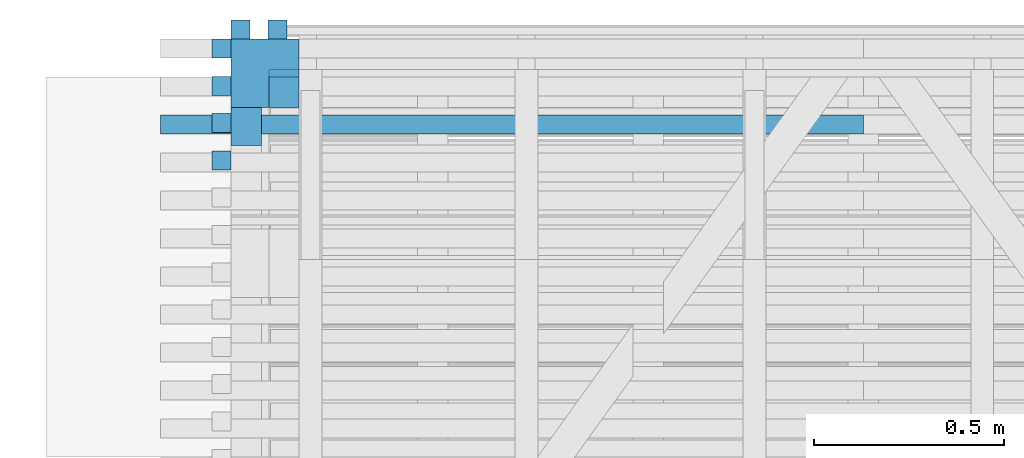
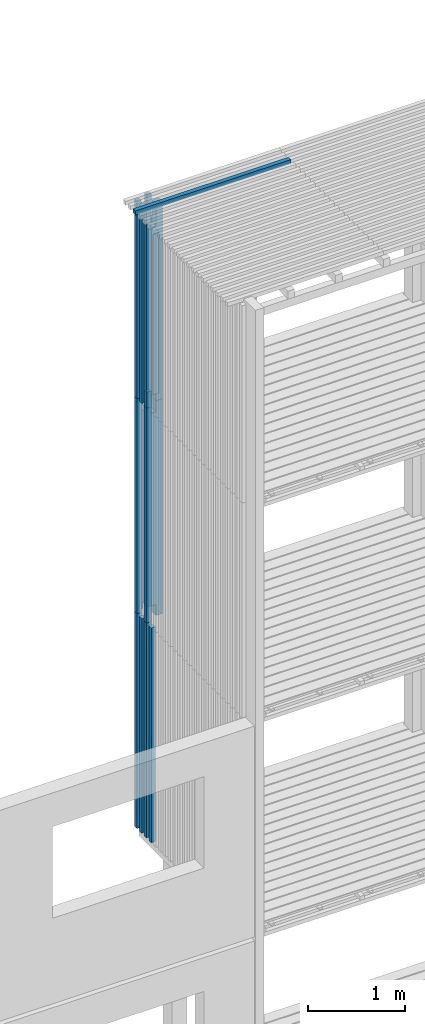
# One storey, part 43 of 182: 17 beams.
"""IFC2X3 building model written with IfcOpenShell, lengths in metres."""

from ifc_helpers import new_model, si_unit, frame, origin, place, context, project, spatial, faceted_brep, element, save


model = new_model("IFC2X3")

# Units and contexts
model_context = context("Model", 3, precision=1e-06, world=origin())
ifc_project = project(units=[si_unit("LENGTHUNIT", "METRE"), si_unit("PLANEANGLEUNIT", "RADIAN")], contexts=[model_context])

# Site, building, storey
site = spatial("IfcSite", under=ifc_project, CompositionType="ELEMENT")
building = spatial("IfcBuilding", under=site, CompositionType="ELEMENT")
storey = spatial("IfcBuildingStorey", under=building, Name="vs", CompositionType="ELEMENT", Elevation=-0.85)

# Beams
placement = place(None, origin())
beam_1_placement = place(placement, frame((13.364197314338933, 12.640077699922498, 8.146999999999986), z_axis=(0.0, -1.0, 0.0), x_axis=(0.0, 0.0, 1.0)))
element("IfcBeam", 1, at=beam_1_placement, inside=storey, Name="Support bardage", context=model_context, shape_type="Brep", body=[
    faceted_brep([(2.017999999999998, -0.040000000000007, -0.050000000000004), (2.017999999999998, 0.039999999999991, -0.050000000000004), (2.017999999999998, 0.039999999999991, 0.049999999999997), (2.017999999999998, -0.040000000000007, 0.049999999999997), (1e-15, 0.039999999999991, -0.050000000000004), (1e-15, -0.040000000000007, -0.050000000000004), (1e-15, -0.040000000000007, 0.049999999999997), (1e-15, 0.039999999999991, 0.049999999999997), (2.017999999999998, 0.039999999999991, 0.049999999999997), (2.017999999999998, 0.039999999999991, -0.050000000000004), (1e-15, 0.039999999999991, -0.050000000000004), (1e-15, 0.039999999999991, 0.049999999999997), (1e-15, 0.039999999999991, -0.050000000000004), (2.017999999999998, 0.039999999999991, -0.050000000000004), (2.017999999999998, -0.040000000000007, -0.050000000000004), (1e-15, -0.040000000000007, -0.050000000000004), (1e-15, -0.040000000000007, -0.050000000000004), (2.017999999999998, -0.040000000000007, -0.050000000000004), (2.017999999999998, -0.040000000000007, 0.049999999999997), (1e-15, -0.040000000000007, 0.049999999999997), (1e-15, -0.040000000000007, 0.049999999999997), (2.017999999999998, -0.040000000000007, 0.049999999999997), (2.017999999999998, 0.039999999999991, 0.049999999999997), (1e-15, 0.039999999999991, 0.049999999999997)], [[[0, 1, 2, 3]], [[4, 5, 6, 7]], [[8, 9, 10, 11]], [[12, 13, 14, 15]], [[16, 17, 18, 19]], [[20, 21, 22, 23]]]),
])
beam_2_placement = place(placement, frame((14.989197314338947, 12.645077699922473, 10.47999999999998), z_axis=(0.0, 0.0, 1.0), x_axis=(-1.0, 0.0, 0.0)))
element("IfcBeam", 2, at=beam_2_placement, inside=storey, Name="Bardage", context=model_context, shape_type="Brep", body=[
    faceted_brep([(1.850000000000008, -0.024999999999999, -0.024999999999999), (1.850000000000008, -0.024999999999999, 0.025000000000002), (-1e-15, -0.025000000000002, 0.025000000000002), (-1e-15, -0.025000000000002, -0.024999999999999), (1.850000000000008, -0.024999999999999, 0.025000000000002), (1.850000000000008, -0.024999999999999, -0.024999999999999), (1.850000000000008, 0.024999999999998, -0.024999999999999), (1.850000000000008, 0.024999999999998, 0.025000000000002), (1.850000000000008, 0.024999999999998, -0.024999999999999), (1.850000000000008, -0.024999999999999, -0.024999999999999), (-1e-15, -0.025000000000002, -0.024999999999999), (-1e-15, 0.024999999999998, -0.024999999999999), (1.850000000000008, 0.024999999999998, 0.025000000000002), (1.850000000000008, 0.024999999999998, -0.024999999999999), (-1e-15, 0.024999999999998, -0.024999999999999), (-1e-15, 0.024999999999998, 0.025000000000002), (-1e-15, -0.025000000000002, 0.025000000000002), (1.850000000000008, -0.024999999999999, 0.025000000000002), (1.850000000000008, 0.024999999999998, 0.025000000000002), (-1e-15, 0.024999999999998, 0.025000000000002), (-1e-15, -0.025000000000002, -0.024999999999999), (-1e-15, -0.025000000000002, 0.025000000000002), (-1e-15, 0.024999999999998, 0.025000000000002), (-1e-15, 0.024999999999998, -0.024999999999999)], [[[0, 1, 2, 3]], [[4, 5, 6, 7]], [[8, 9, 10, 11]], [[12, 13, 14, 15]], [[16, 17, 18, 19]], [[20, 21, 22, 23]]]),
])
beam_3_placement = place(placement, frame((13.447379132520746, 12.895077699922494, 5.274999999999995), z_axis=(0.0, -1.0, 0.0), x_axis=(0.0, 0.0, 1.0)))
element("IfcBeam", 3, at=beam_3_placement, inside=storey, Name="Bardage", context=model_context, shape_type="Brep", body=[
    faceted_brep([(1e-15, -0.025000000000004, 0.024999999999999), (1e-15, 0.024999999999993, 0.025000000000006), (1e-15, 0.025000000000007, -0.024999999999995), (1e-15, -0.025000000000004, -0.025000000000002), (2.699999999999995, -0.025000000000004, -0.025000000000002), (2.699999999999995, 0.025000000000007, -0.024999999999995), (2.699999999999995, 0.024999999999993, 0.025000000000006), (2.699999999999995, -0.025000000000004, 0.024999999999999), (1e-15, -0.025000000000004, 0.024999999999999), (1e-15, -0.025000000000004, -0.025000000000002), (2.699999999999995, -0.025000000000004, -0.025000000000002), (2.699999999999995, -0.025000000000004, 0.024999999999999), (2.699999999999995, -0.025000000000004, -0.025000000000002), (1e-15, -0.025000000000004, -0.025000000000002), (1e-15, 0.025000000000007, -0.024999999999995), (2.699999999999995, 0.025000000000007, -0.024999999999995), (2.699999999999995, 0.025000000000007, -0.024999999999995), (1e-15, 0.025000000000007, -0.024999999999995), (1e-15, 0.024999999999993, 0.025000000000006), (2.699999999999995, 0.024999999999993, 0.025000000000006), (2.699999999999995, 0.024999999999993, 0.025000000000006), (1e-15, 0.024999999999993, 0.025000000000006), (1e-15, -0.025000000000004, 0.024999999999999), (2.699999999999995, -0.025000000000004, 0.024999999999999)], [[[0, 1, 2, 3]], [[4, 5, 6, 7]], [[8, 9, 10, 11]], [[12, 13, 14, 15]], [[16, 17, 18, 19]], [[20, 21, 22, 23]]]),
])
beam_4_placement = place(placement, frame((13.414197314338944, 12.780077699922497, 7.979999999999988), z_axis=(0.0, -1.0, 0.0), x_axis=(0.0, 0.0, 1.0)))
element("IfcBeam", 4, at=beam_4_placement, inside=storey, Name="Poteau", context=model_context, shape_type="Brep", body=[
    faceted_brep([(2.194999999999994, -0.009999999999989, 0.089999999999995), (2.194999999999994, -0.009999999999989, 0.010000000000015), (2.194999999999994, -0.089999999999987, 0.010000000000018), (2.194999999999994, -0.089999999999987, -0.090000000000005), (2.194999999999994, 0.090000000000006, -0.090000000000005), (2.194999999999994, 0.090000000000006, 0.089999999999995), (0.139999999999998, 0.090000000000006, 0.089999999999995), (2.194999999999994, 0.090000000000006, 0.089999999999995), (2.194999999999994, 0.090000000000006, -0.090000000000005), (0.139999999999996, 0.090000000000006, -0.090000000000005), (0.059999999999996, -0.009999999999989, -0.009999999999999), (0.059999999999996, -0.089999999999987, -0.009999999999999), (-1e-15, -0.089999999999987, -0.009999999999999), (-1e-15, -0.009999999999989, -0.009999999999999), (-1e-15, -0.009999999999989, 0.089999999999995), (-1e-15, -0.009999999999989, -0.009999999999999), (-1e-15, -0.089999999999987, -0.009999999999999), (-1e-15, -0.089999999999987, 0.089999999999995), (0.139999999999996, -0.009999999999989, -0.090000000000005), (0.139999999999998, -0.009999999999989, 0.089999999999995), (0.139999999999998, 0.090000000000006, 0.089999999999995), (0.139999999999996, 0.090000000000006, -0.090000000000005), (0.059999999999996, -0.089999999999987, -0.009999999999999), (0.059999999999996, -0.009999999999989, -0.009999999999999), (0.059999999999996, -0.009999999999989, -0.090000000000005), (0.059999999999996, -0.089999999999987, -0.090000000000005), (-1e-15, -0.009999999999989, -0.009999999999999), (-1e-15, -0.009999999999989, 0.089999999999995), (0.139999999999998, -0.009999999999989, 0.089999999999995), (0.139999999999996, -0.009999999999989, -0.090000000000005), (0.059999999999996, -0.009999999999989, -0.090000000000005), (0.059999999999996, -0.009999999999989, -0.009999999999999), (0.059999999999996, -0.089999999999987, -0.090000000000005), (0.059999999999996, -0.009999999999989, -0.090000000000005), (0.139999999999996, -0.009999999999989, -0.090000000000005), (0.139999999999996, 0.090000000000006, -0.090000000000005), (2.194999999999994, 0.090000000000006, -0.090000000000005), (2.194999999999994, -0.089999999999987, -0.090000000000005), (2.474999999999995, -0.089999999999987, 0.089999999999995), (-1e-15, -0.089999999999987, 0.089999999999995), (-1e-15, -0.089999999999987, -0.009999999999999), (0.059999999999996, -0.089999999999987, -0.009999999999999), (0.059999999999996, -0.089999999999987, -0.090000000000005), (2.194999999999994, -0.089999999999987, -0.090000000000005), (2.194999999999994, -0.089999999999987, 0.010000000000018), (2.474999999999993, -0.089999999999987, 0.010000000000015), (2.474999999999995, -0.089999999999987, 0.089999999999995), (2.474999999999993, -0.089999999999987, 0.010000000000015), (2.474999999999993, -0.009999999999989, 0.010000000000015), (2.474999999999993, -0.009999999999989, 0.089999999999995), (2.194999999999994, -0.089999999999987, 0.010000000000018), (2.194999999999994, -0.009999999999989, 0.010000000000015), (2.474999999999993, -0.009999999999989, 0.010000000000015), (2.474999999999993, -0.089999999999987, 0.010000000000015), (2.474999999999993, -0.009999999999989, 0.089999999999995), (2.474999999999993, -0.009999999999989, 0.010000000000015), (2.194999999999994, -0.009999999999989, 0.010000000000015), (2.194999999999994, -0.009999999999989, 0.089999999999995), (2.474999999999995, -0.089999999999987, 0.089999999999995), (2.474999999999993, -0.009999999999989, 0.089999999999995), (2.194999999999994, -0.009999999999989, 0.089999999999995), (2.194999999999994, 0.090000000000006, 0.089999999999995), (0.139999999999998, 0.090000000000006, 0.089999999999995), (0.139999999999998, -0.009999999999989, 0.089999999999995), (-1e-15, -0.009999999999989, 0.089999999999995), (-1e-15, -0.089999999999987, 0.089999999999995)], [[[0, 1, 2, 3, 4, 5]], [[6, 7, 8, 9]], [[10, 11, 12, 13]], [[14, 15, 16, 17]], [[18, 19, 20, 21]], [[22, 23, 24, 25]], [[26, 27, 28, 29, 30, 31]], [[32, 33, 34, 35, 36, 37]], [[38, 39, 40, 41, 42, 43, 44, 45]], [[46, 47, 48, 49]], [[50, 51, 52, 53]], [[54, 55, 56, 57]], [[58, 59, 60, 61, 62, 63, 64, 65]]]),
])
beam_5_placement = place(placement, frame((13.349197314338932, 12.895077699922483, 5.274999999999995), z_axis=(0.0, -1.0, 0.0), x_axis=(0.0, 0.0, 1.0)))
element("IfcBeam", 5, at=beam_5_placement, inside=storey, Name="Bardage", context=model_context, shape_type="Brep", body=[
    faceted_brep([(1e-15, -0.025000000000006, 0.025000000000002), (1e-15, 0.024999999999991, 0.025000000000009), (1e-15, 0.025000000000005, -0.024999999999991), (1e-15, -0.024999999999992, -0.024999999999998), (2.699999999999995, -0.024999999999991, -0.024999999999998), (2.699999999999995, 0.025000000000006, -0.024999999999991), (2.699999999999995, 0.024999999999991, 0.025000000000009), (2.699999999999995, -0.025000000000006, 0.025000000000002), (1e-15, -0.025000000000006, 0.025000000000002), (1e-15, -0.024999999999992, -0.024999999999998), (2.699999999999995, -0.024999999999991, -0.024999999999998), (2.699999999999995, -0.025000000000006, 0.025000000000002), (2.699999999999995, -0.024999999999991, -0.024999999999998), (1e-15, -0.024999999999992, -0.024999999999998), (1e-15, 0.025000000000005, -0.024999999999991), (2.699999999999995, 0.025000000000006, -0.024999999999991), (2.699999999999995, 0.025000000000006, -0.024999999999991), (1e-15, 0.025000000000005, -0.024999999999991), (1e-15, 0.024999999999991, 0.025000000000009), (2.699999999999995, 0.024999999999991, 0.025000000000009), (2.699999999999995, 0.024999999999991, 0.025000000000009), (1e-15, 0.024999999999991, 0.025000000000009), (1e-15, -0.025000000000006, 0.025000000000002), (2.699999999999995, -0.025000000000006, 0.025000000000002)], [[[0, 1, 2, 3]], [[4, 5, 6, 7]], [[8, 9, 10, 11]], [[12, 13, 14, 15]], [[16, 17, 18, 19]], [[20, 21, 22, 23]]]),
])
beam_6_placement = place(placement, frame((13.299197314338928, 12.845077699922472, 2.575000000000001), z_axis=(1.0, 0.0, 0.0), x_axis=(0.0, 3e-15, 1.0)))
element("IfcBeam", 6, at=beam_6_placement, inside=storey, Name="Bardage", context=model_context, shape_type="Brep", body=[
    faceted_brep([(2.699961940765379, -0.024999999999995, 0.025000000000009), (2.699961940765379, -0.024999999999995, -0.025000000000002), (2.699961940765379, 0.02500000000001, -0.025000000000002), (2.699961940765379, 0.02500000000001, 0.025000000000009), (0.0, -0.025000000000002, 0.025000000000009), (2.699961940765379, -0.024999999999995, 0.025000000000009), (2.699961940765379, 0.02500000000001, 0.025000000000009), (0.0, 0.025000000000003, 0.025000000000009), (0.0, -0.025000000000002, 0.025000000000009), (0.0, 0.025000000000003, 0.025000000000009), (0.0, 0.025000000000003, -0.025000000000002), (0.0, -0.025000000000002, -0.025000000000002), (0.0, -0.025000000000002, 0.025000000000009), (0.0, -0.025000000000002, -0.025000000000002), (2.699961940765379, -0.024999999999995, -0.025000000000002), (2.699961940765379, -0.024999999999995, 0.025000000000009), (0.0, -0.025000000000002, -0.025000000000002), (0.0, 0.025000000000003, -0.025000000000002), (2.699961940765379, 0.02500000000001, -0.025000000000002), (2.699961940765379, -0.024999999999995, -0.025000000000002), (0.0, 0.025000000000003, -0.025000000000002), (0.0, 0.025000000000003, 0.025000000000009), (2.699961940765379, 0.02500000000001, 0.025000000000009), (2.699961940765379, 0.02500000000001, -0.025000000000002)], [[[0, 1, 2, 3]], [[4, 5, 6, 7]], [[8, 9, 10, 11]], [[12, 13, 14, 15]], [[16, 17, 18, 19]], [[20, 21, 22, 23]]]),
])
beam_7_placement = place(placement, frame((13.299197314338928, 12.648714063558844, 7.974999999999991), z_axis=(1.0, 0.0, 0.0), x_axis=(0.0, 0.0, 1.0)))
element("IfcBeam", 7, at=beam_7_placement, inside=storey, Name="Bardage", context=model_context, shape_type="Brep", body=[
    faceted_brep([(0.0, -0.024999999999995, 0.025000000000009), (0.0, 0.025000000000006, 0.025000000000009), (0.0, 0.025000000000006, -0.025000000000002), (0.0, -0.024999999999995, -0.025000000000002), (2.479999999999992, 0.025000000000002, -0.025000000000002), (2.479999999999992, 0.025000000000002, 0.025000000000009), (2.479999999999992, -0.024999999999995, 0.025000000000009), (2.479999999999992, -0.024999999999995, -0.025000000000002), (0.0, 0.025000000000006, 0.025000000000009), (0.0, -0.024999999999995, 0.025000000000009), (2.479999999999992, -0.024999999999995, 0.025000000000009), (2.479999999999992, 0.025000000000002, 0.025000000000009), (0.0, 0.025000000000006, -0.025000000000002), (0.0, 0.025000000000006, 0.025000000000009), (2.479999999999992, 0.025000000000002, 0.025000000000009), (2.479999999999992, 0.025000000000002, -0.025000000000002), (0.0, -0.024999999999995, -0.025000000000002), (0.0, 0.025000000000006, -0.025000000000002), (2.479999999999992, 0.025000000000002, -0.025000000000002), (2.479999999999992, -0.024999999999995, -0.025000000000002), (2.479999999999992, -0.024999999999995, 0.025000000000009), (0.0, -0.024999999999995, 0.025000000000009), (0.0, -0.024999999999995, -0.025000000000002), (2.479999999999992, -0.024999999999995, -0.025000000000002)], [[[0, 1, 2, 3]], [[4, 5, 6, 7]], [[8, 9, 10, 11]], [[12, 13, 14, 15]], [[16, 17, 18, 19]], [[20, 21, 22, 23]]]),
])
beam_8_placement = place(placement, frame((13.299197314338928, 12.550532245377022, 2.575000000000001), z_axis=(1.0, 0.0, 0.0), x_axis=(0.0, 0.0, 1.0)))
element("IfcBeam", 8, at=beam_8_placement, inside=storey, Name="Bardage", context=model_context, shape_type="Brep", body=[
    faceted_brep([(2.699961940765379, -0.025000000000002, 0.025000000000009), (2.699961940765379, -0.025000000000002, -0.025000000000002), (2.699961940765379, 0.025000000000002, -0.025000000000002), (2.699961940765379, 0.025000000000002, 0.025000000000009), (0.0, -0.025000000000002, 0.025000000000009), (2.699961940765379, -0.025000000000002, 0.025000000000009), (2.699961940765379, 0.025000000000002, 0.025000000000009), (0.0, 0.025000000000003, 0.025000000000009), (0.0, -0.025000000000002, 0.025000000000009), (0.0, 0.025000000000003, 0.025000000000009), (0.0, 0.025000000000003, -0.025000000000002), (0.0, -0.025000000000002, -0.025000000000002), (0.0, -0.025000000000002, 0.025000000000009), (0.0, -0.025000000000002, -0.025000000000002), (2.699961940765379, -0.025000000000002, -0.025000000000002), (2.699961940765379, -0.025000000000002, 0.025000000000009), (0.0, -0.025000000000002, -0.025000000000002), (0.0, 0.025000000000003, -0.025000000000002), (2.699961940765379, 0.025000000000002, -0.025000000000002), (2.699961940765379, -0.025000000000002, -0.025000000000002), (0.0, 0.025000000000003, -0.025000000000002), (0.0, 0.025000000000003, 0.025000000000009), (2.699961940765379, 0.025000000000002, 0.025000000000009), (2.699961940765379, 0.025000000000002, -0.025000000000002)], [[[0, 1, 2, 3]], [[4, 5, 6, 7]], [[8, 9, 10, 11]], [[12, 13, 14, 15]], [[16, 17, 18, 19]], [[20, 21, 22, 23]]]),
])
beam_9_placement = place(placement, frame((13.41419731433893, 12.780077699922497, 5.279999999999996), z_axis=(0.0, -1.0, 0.0), x_axis=(0.0, 0.0, 1.0)))
element("IfcBeam", 9, at=beam_9_placement, inside=storey, Name="Poteau", context=model_context, shape_type="Brep", body=[
    faceted_brep([(0.059999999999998, -0.010000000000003, -0.010000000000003), (0.059999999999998, -0.090000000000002, -0.009999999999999), (-1e-15, -0.090000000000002, -0.010000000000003), (-1e-15, -0.010000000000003, -0.010000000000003), (-1e-15, -0.010000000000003, 0.089999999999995), (-1e-15, -0.010000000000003, -0.010000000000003), (-1e-15, -0.090000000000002, -0.010000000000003), (-1e-15, -0.090000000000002, 0.089999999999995), (0.139999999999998, -0.010000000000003, -0.090000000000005), (0.139999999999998, -0.010000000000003, 0.089999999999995), (0.139999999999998, 0.089999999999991, 0.089999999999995), (0.139999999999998, 0.089999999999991, -0.090000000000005), (0.059999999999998, -0.090000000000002, -0.009999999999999), (0.059999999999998, -0.010000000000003, -0.010000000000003), (0.059999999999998, -0.010000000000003, -0.090000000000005), (0.059999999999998, -0.090000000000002, -0.090000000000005), (-1e-15, -0.010000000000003, -0.010000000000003), (-1e-15, -0.010000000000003, 0.089999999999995), (0.139999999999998, -0.010000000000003, 0.089999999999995), (0.139999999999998, -0.010000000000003, -0.090000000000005), (0.059999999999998, -0.010000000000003, -0.090000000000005), (0.059999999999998, -0.010000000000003, -0.010000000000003), (0.059999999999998, -0.090000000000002, -0.090000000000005), (0.059999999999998, -0.010000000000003, -0.090000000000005), (0.139999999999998, -0.010000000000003, -0.090000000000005), (0.139999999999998, 0.089999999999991, -0.090000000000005), (2.559999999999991, 0.089999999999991, -0.090000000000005), (2.559999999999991, -0.090000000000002, -0.090000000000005), (2.699999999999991, -0.090000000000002, -0.009999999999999), (2.699999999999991, -0.090000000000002, 0.089999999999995), (-1e-15, -0.090000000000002, 0.089999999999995), (-1e-15, -0.090000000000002, -0.010000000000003), (0.059999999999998, -0.090000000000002, -0.009999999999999), (0.059999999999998, -0.090000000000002, -0.090000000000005), (2.559999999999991, -0.090000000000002, -0.090000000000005), (2.559999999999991, -0.090000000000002, -0.009999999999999), (2.559999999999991, 0.089999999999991, -0.090000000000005), (0.139999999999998, 0.089999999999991, -0.090000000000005), (0.139999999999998, 0.089999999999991, 0.089999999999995), (2.559999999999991, 0.089999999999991, 0.089999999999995), (2.699999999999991, -0.010000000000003, 0.089999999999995), (2.559999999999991, -0.010000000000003, 0.089999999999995), (2.559999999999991, 0.089999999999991, 0.089999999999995), (0.139999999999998, 0.089999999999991, 0.089999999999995), (0.139999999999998, -0.010000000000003, 0.089999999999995), (-1e-15, -0.010000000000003, 0.089999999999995), (-1e-15, -0.090000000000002, 0.089999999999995), (2.699999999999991, -0.090000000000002, 0.089999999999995), (2.699999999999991, -0.090000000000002, -0.009999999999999), (2.559999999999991, -0.090000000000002, -0.009999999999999), (2.559999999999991, -0.010000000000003, -0.010000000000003), (2.699999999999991, -0.010000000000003, -0.009999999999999), (2.699999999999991, -0.010000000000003, 0.089999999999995), (2.699999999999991, -0.090000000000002, 0.089999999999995), (2.699999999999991, -0.090000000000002, -0.009999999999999), (2.699999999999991, -0.010000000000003, -0.009999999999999), (2.559999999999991, -0.010000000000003, 0.089999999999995), (2.699999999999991, -0.010000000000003, 0.089999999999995), (2.699999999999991, -0.010000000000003, -0.009999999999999), (2.559999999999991, -0.010000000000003, -0.010000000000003), (2.559999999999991, 0.089999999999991, -0.090000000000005), (2.559999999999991, 0.089999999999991, 0.089999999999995), (2.559999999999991, -0.010000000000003, 0.089999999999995), (2.559999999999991, -0.010000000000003, -0.010000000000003), (2.559999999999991, -0.090000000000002, -0.009999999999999), (2.559999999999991, -0.090000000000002, -0.090000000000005)], [[[0, 1, 2, 3]], [[4, 5, 6, 7]], [[8, 9, 10, 11]], [[12, 13, 14, 15]], [[16, 17, 18, 19, 20, 21]], [[22, 23, 24, 25, 26, 27]], [[28, 29, 30, 31, 32, 33, 34, 35]], [[36, 37, 38, 39]], [[40, 41, 42, 43, 44, 45, 46, 47]], [[48, 49, 50, 51]], [[52, 53, 54, 55]], [[56, 57, 58, 59]], [[60, 61, 62, 63, 64, 65]]]),
])
beam_10_placement = place(placement, frame((13.447379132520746, 12.895077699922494, 2.575000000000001), z_axis=(0.0, -1.0, 0.0), x_axis=(0.0, 0.0, 1.0)))
element("IfcBeam", 10, at=beam_10_placement, inside=storey, Name="Bardage", context=model_context, shape_type="Brep", body=[
    faceted_brep([(0.0, -0.025000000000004, 0.024999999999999), (0.0, 0.024999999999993, 0.025000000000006), (0.0, 0.025000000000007, -0.024999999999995), (0.0, -0.025000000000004, -0.025000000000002), (2.699961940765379, 0.025000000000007, -0.024999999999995), (2.699961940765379, 0.024999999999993, 0.025000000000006), (2.699961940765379, -0.025000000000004, 0.024999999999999), (2.699961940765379, -0.025000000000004, -0.025000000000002), (0.0, -0.025000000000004, -0.025000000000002), (0.0, 0.025000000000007, -0.024999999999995), (2.699961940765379, 0.025000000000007, -0.024999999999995), (2.699961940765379, -0.025000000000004, -0.025000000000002), (2.699961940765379, 0.025000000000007, -0.024999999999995), (0.0, 0.025000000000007, -0.024999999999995), (0.0, 0.024999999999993, 0.025000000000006), (2.699961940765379, 0.024999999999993, 0.025000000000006), (2.699961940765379, 0.024999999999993, 0.025000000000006), (0.0, 0.024999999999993, 0.025000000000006), (0.0, -0.025000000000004, 0.024999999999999), (2.699961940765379, -0.025000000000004, 0.024999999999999), (2.699961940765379, -0.025000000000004, 0.024999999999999), (0.0, -0.025000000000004, 0.024999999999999), (0.0, -0.025000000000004, -0.025000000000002), (2.699961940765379, -0.025000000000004, -0.025000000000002)], [[[0, 1, 2, 3]], [[4, 5, 6, 7]], [[8, 9, 10, 11]], [[12, 13, 14, 15]], [[16, 17, 18, 19]], [[20, 21, 22, 23]]]),
])
beam_11_placement = place(placement, frame((13.299197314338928, 12.746895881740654, 2.575000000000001), z_axis=(1.0, 0.0, 0.0), x_axis=(0.0, 0.0, 1.0)))
element("IfcBeam", 11, at=beam_11_placement, inside=storey, Name="Bardage", context=model_context, shape_type="Brep", body=[
    faceted_brep([(2.699961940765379, -0.025000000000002, 0.025000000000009), (2.699961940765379, -0.025000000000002, -0.025000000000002), (2.699961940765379, 0.024999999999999, -0.025000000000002), (2.699961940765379, 0.024999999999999, 0.025000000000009), (0.0, -0.024999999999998, 0.025000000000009), (2.699961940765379, -0.025000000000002, 0.025000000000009), (2.699961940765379, 0.024999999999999, 0.025000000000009), (0.0, 0.024999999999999, 0.025000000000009), (0.0, -0.024999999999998, 0.025000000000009), (0.0, 0.024999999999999, 0.025000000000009), (0.0, 0.024999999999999, -0.025000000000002), (0.0, -0.024999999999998, -0.025000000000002), (0.0, -0.024999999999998, 0.025000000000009), (0.0, -0.024999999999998, -0.025000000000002), (2.699961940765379, -0.025000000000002, -0.025000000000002), (2.699961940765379, -0.025000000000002, 0.025000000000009), (0.0, -0.024999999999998, -0.025000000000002), (0.0, 0.024999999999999, -0.025000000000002), (2.699961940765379, 0.024999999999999, -0.025000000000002), (2.699961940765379, -0.025000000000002, -0.025000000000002), (0.0, 0.024999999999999, -0.025000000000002), (0.0, 0.024999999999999, 0.025000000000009), (2.699961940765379, 0.024999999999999, 0.025000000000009), (2.699961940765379, 0.024999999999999, -0.025000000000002)], [[[0, 1, 2, 3]], [[4, 5, 6, 7]], [[8, 9, 10, 11]], [[12, 13, 14, 15]], [[16, 17, 18, 19]], [[20, 21, 22, 23]]]),
])
beam_12_placement = place(placement, frame((13.299197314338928, 12.648714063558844, 2.575000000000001), z_axis=(1.0, 0.0, 0.0), x_axis=(0.0, 0.0, 1.0)))
element("IfcBeam", 12, at=beam_12_placement, inside=storey, Name="Bardage", context=model_context, shape_type="Brep", body=[
    faceted_brep([(2.699961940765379, -0.024999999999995, 0.025000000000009), (2.699961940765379, -0.024999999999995, -0.025000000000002), (2.699961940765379, 0.025000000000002, -0.025000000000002), (2.699961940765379, 0.025000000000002, 0.025000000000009), (0.0, -0.024999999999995, 0.025000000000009), (2.699961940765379, -0.024999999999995, 0.025000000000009), (2.699961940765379, 0.025000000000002, 0.025000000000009), (0.0, 0.025000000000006, 0.025000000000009), (0.0, -0.024999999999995, 0.025000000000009), (0.0, 0.025000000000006, 0.025000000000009), (0.0, 0.025000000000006, -0.025000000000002), (0.0, -0.024999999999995, -0.025000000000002), (0.0, -0.024999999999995, 0.025000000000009), (0.0, -0.024999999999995, -0.025000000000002), (2.699961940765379, -0.024999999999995, -0.025000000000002), (2.699961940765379, -0.024999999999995, 0.025000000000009), (0.0, -0.024999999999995, -0.025000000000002), (0.0, 0.025000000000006, -0.025000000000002), (2.699961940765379, 0.025000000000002, -0.025000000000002), (2.699961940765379, -0.024999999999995, -0.025000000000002), (0.0, 0.025000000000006, -0.025000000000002), (0.0, 0.025000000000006, 0.025000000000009), (2.699961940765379, 0.025000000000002, 0.025000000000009), (2.699961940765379, 0.025000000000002, -0.025000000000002)], [[[0, 1, 2, 3]], [[4, 5, 6, 7]], [[8, 9, 10, 11]], [[12, 13, 14, 15]], [[16, 17, 18, 19]], [[20, 21, 22, 23]]]),
])
beam_13_placement = place(placement, frame((13.299197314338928, 12.648714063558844, 5.274999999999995), z_axis=(1.0, 0.0, 0.0), x_axis=(0.0, 0.0, 1.0)))
element("IfcBeam", 13, at=beam_13_placement, inside=storey, Name="Bardage", context=model_context, shape_type="Brep", body=[
    faceted_brep([(2.699999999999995, 0.025000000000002, 0.025000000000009), (2.699999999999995, -0.024999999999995, 0.025000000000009), (2.699999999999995, -0.024999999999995, -0.025000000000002), (2.699999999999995, 0.025000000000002, -0.025000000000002), (1e-15, 0.025000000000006, 0.025000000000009), (2.699999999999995, 0.025000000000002, 0.025000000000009), (2.699999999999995, 0.025000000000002, -0.025000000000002), (1e-15, 0.025000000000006, -0.025000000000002), (1e-15, -0.024999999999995, 0.025000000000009), (1e-15, 0.025000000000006, 0.025000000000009), (1e-15, 0.025000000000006, -0.025000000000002), (1e-15, -0.024999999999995, -0.025000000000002), (1e-15, 0.025000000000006, 0.025000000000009), (1e-15, -0.024999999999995, 0.025000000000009), (2.699999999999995, -0.024999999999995, 0.025000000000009), (2.699999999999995, 0.025000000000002, 0.025000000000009), (1e-15, -0.024999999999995, 0.025000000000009), (1e-15, -0.024999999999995, -0.025000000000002), (2.699999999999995, -0.024999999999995, -0.025000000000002), (2.699999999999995, -0.024999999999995, 0.025000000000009), (1e-15, -0.024999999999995, -0.025000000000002), (1e-15, 0.025000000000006, -0.025000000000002), (2.699999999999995, 0.025000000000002, -0.025000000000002), (2.699999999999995, -0.024999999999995, -0.025000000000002)], [[[0, 1, 2, 3]], [[4, 5, 6, 7]], [[8, 9, 10, 11]], [[12, 13, 14, 15]], [[16, 17, 18, 19]], [[20, 21, 22, 23]]]),
])
beam_14_placement = place(placement, frame((13.447379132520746, 12.895077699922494, 7.974999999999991), z_axis=(0.0, -1.0, 0.0), x_axis=(0.0, 0.0, 1.0)))
element("IfcBeam", 14, at=beam_14_placement, inside=storey, Name="Bardage", context=model_context, shape_type="Brep", body=[
    faceted_brep([(2.479999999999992, -0.025000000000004, 0.024999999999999), (2.479999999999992, -0.025000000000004, -0.024999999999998), (2.479999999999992, 0.025000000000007, -0.024999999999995), (2.479999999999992, 0.024999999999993, 0.025000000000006), (0.0, 0.024999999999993, 0.025000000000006), (0.0, -0.025000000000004, 0.024999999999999), (2.479999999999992, -0.025000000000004, 0.024999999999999), (2.479999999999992, 0.024999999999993, 0.025000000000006), (0.0, -0.025000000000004, 0.024999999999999), (0.0, 0.024999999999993, 0.025000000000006), (0.0, 0.025000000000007, -0.024999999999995), (0.0, -0.025000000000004, -0.025000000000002), (0.0, 0.025000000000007, -0.024999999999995), (0.0, 0.024999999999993, 0.025000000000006), (2.479999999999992, 0.024999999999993, 0.025000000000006), (2.479999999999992, 0.025000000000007, -0.024999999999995), (0.0, -0.025000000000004, -0.025000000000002), (0.0, 0.025000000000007, -0.024999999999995), (2.479999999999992, 0.025000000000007, -0.024999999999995), (2.479999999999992, -0.025000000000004, -0.024999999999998), (2.479999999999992, -0.025000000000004, 0.024999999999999), (0.0, -0.025000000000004, 0.024999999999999), (0.0, -0.025000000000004, -0.025000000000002), (2.479999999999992, -0.025000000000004, -0.024999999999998)], [[[0, 1, 2, 3]], [[4, 5, 6, 7]], [[8, 9, 10, 11]], [[12, 13, 14, 15]], [[16, 17, 18, 19]], [[20, 21, 22, 23]]]),
])
beam_15_placement = place(placement, frame((13.299197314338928, 12.845077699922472, 5.274999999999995), z_axis=(1.0, 0.0, 0.0), x_axis=(0.0, 3e-15, 1.0)))
element("IfcBeam", 15, at=beam_15_placement, inside=storey, Name="Bardage", context=model_context, shape_type="Brep", body=[
    faceted_brep([(2.699999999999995, 0.02500000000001, 0.025000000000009), (2.699999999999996, -0.024999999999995, 0.025000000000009), (2.699999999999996, -0.024999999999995, -0.025000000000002), (2.699999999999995, 0.02500000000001, -0.025000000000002), (1e-15, 0.025000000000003, 0.025000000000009), (2.699999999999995, 0.02500000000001, 0.025000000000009), (2.699999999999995, 0.02500000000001, -0.025000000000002), (1e-15, 0.025000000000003, -0.025000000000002), (2e-15, -0.025000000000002, 0.025000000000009), (1e-15, 0.025000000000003, 0.025000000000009), (1e-15, 0.025000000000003, -0.025000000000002), (2e-15, -0.025000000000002, -0.025000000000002), (1e-15, 0.025000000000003, 0.025000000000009), (2e-15, -0.025000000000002, 0.025000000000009), (2.699999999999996, -0.024999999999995, 0.025000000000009), (2.699999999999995, 0.02500000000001, 0.025000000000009), (2e-15, -0.025000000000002, 0.025000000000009), (2e-15, -0.025000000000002, -0.025000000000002), (2.699999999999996, -0.024999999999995, -0.025000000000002), (2.699999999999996, -0.024999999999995, 0.025000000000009), (2e-15, -0.025000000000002, -0.025000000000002), (1e-15, 0.025000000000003, -0.025000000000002), (2.699999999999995, 0.02500000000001, -0.025000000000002), (2.699999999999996, -0.024999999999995, -0.025000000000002)], [[[0, 1, 2, 3]], [[4, 5, 6, 7]], [[8, 9, 10, 11]], [[12, 13, 14, 15]], [[16, 17, 18, 19]], [[20, 21, 22, 23]]]),
])
beam_16_placement = place(placement, frame((13.299197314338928, 12.845077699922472, 7.974999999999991), z_axis=(1.0, 0.0, 0.0), x_axis=(0.0, 3e-15, 1.0)))
element("IfcBeam", 16, at=beam_16_placement, inside=storey, Name="Bardage", context=model_context, shape_type="Brep", body=[
    faceted_brep([(0.0, -0.025000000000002, 0.025000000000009), (-1e-15, 0.025000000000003, 0.025000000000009), (-1e-15, 0.025000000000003, -0.025000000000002), (0.0, -0.025000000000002, -0.025000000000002), (2.479999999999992, 0.02500000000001, -0.025000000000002), (2.479999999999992, 0.02500000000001, 0.025000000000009), (2.479999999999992, -0.024999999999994, 0.025000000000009), (2.479999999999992, -0.024999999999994, -0.025000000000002), (-1e-15, 0.025000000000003, 0.025000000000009), (0.0, -0.025000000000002, 0.025000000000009), (2.479999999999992, -0.024999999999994, 0.025000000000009), (2.479999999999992, 0.02500000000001, 0.025000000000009), (-1e-15, 0.025000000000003, -0.025000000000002), (-1e-15, 0.025000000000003, 0.025000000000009), (2.479999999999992, 0.02500000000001, 0.025000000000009), (2.479999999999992, 0.02500000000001, -0.025000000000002), (0.0, -0.025000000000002, -0.025000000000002), (-1e-15, 0.025000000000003, -0.025000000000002), (2.479999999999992, 0.02500000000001, -0.025000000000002), (2.479999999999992, -0.024999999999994, -0.025000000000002), (2.479999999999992, -0.024999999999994, 0.025000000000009), (0.0, -0.025000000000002, 0.025000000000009), (0.0, -0.025000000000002, -0.025000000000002), (2.479999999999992, -0.024999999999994, -0.025000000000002)], [[[0, 1, 2, 3]], [[4, 5, 6, 7]], [[8, 9, 10, 11]], [[12, 13, 14, 15]], [[16, 17, 18, 19]], [[20, 21, 22, 23]]]),
])
beam_17_placement = place(placement, frame((13.299197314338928, 12.746895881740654, 7.974999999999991), z_axis=(1.0, 0.0, 0.0), x_axis=(0.0, 0.0, 1.0)))
element("IfcBeam", 17, at=beam_17_placement, inside=storey, Name="Bardage", context=model_context, shape_type="Brep", body=[
    faceted_brep([(0.0, -0.024999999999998, 0.025000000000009), (0.0, 0.024999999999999, 0.025000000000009), (0.0, 0.024999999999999, -0.025000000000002), (0.0, -0.024999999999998, -0.025000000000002), (2.479999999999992, 0.024999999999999, -0.025000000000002), (2.479999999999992, 0.024999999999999, 0.025000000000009), (2.479999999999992, -0.025000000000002, 0.025000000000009), (2.479999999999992, -0.025000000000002, -0.025000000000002), (0.0, 0.024999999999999, 0.025000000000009), (0.0, -0.024999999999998, 0.025000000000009), (2.479999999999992, -0.025000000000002, 0.025000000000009), (2.479999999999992, 0.024999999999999, 0.025000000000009), (0.0, 0.024999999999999, -0.025000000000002), (0.0, 0.024999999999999, 0.025000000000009), (2.479999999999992, 0.024999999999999, 0.025000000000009), (2.479999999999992, 0.024999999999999, -0.025000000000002), (0.0, -0.024999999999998, -0.025000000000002), (0.0, 0.024999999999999, -0.025000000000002), (2.479999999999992, 0.024999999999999, -0.025000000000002), (2.479999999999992, -0.025000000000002, -0.025000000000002), (2.479999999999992, -0.025000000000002, 0.025000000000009), (0.0, -0.024999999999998, 0.025000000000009), (0.0, -0.024999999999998, -0.025000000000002), (2.479999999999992, -0.025000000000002, -0.025000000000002)], [[[0, 1, 2, 3]], [[4, 5, 6, 7]], [[8, 9, 10, 11]], [[12, 13, 14, 15]], [[16, 17, 18, 19]], [[20, 21, 22, 23]]]),
])

save(model, "model.ifc")
